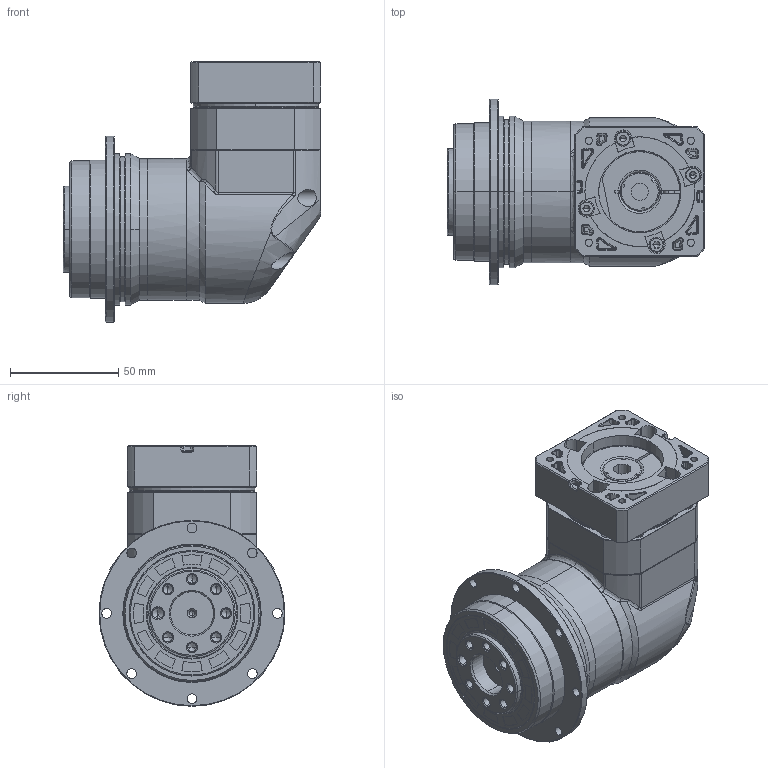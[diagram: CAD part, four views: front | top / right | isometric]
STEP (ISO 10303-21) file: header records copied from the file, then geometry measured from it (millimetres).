
FILE_DESCRIPTION (( 'STEP AP214' ), '1' );
FILE_NAME ('FADR064D-L1-14-50-70-M4.STEP', '2021-04-24T09:45:07', ( '微软用户' ), ( '微软中国' ), 'SwSTEP 2.0', 'SolidWorks 2014', '' );
FILE_SCHEMA (( 'AUTOMOTIVE_DESIGN' ));
Length unit declared in the file: millimetre
Products named in the file (27): hexagon socket head cap screws gb_GB_FASTENER_SCREWS_HSHCS M4X16-N; 11-输入法兰EVT060D-50-70-M4; 输入太阳齿轮060D-14; 珨撰眻褒眊极EVT064D-5.27; 2-输入端壳体EVT060D.; 9-怀堤傷褲极EVT064D; 蚐猾40585; EVT064D怀堤俴陎殤; 坶踡遠18-37-12(1); EVT064D齿圈; FADR064D-L1-14-50-70-M4; hex socket set screws with cone point gb_GB_FASTENER_SCREWS_HSCP M10X10-N
Assembly tree (15 placements, depth 2):
  hexagon socket head cap screws gb_GB_FASTENER_SCREWS_HSHCS M4X16-N
  输入太阳齿轮060D-14
  2-输入端壳体EVT060D.
  9-怀堤傷褲极EVT064D
  hexagon socket head cap screws gb_GB_FASTENER_SCREWS_HSHCS M4X16-N
Bounding box: 119 x 86 x 120.5 mm (x, y, z)
Volume: 506973.6 mm3; surface area: 115567.1 mm2
Topology: 16 solids, 16 shells, 1143 faces, 2745 edges, 1652 vertices
Faces by surface type: cylinder 395, plane 311, cone 216, torus 146, bspline 75
Entity records: 51607 total; most frequent: CARTESIAN_POINT 15725, DIRECTION 5268, ORIENTED_EDGE 4918, EDGE_CURVE 2459, AXIS2_PLACEMENT_3D 2172, VERTEX_POINT 1520, EDGE_LOOP 1199, CIRCLE 1177
